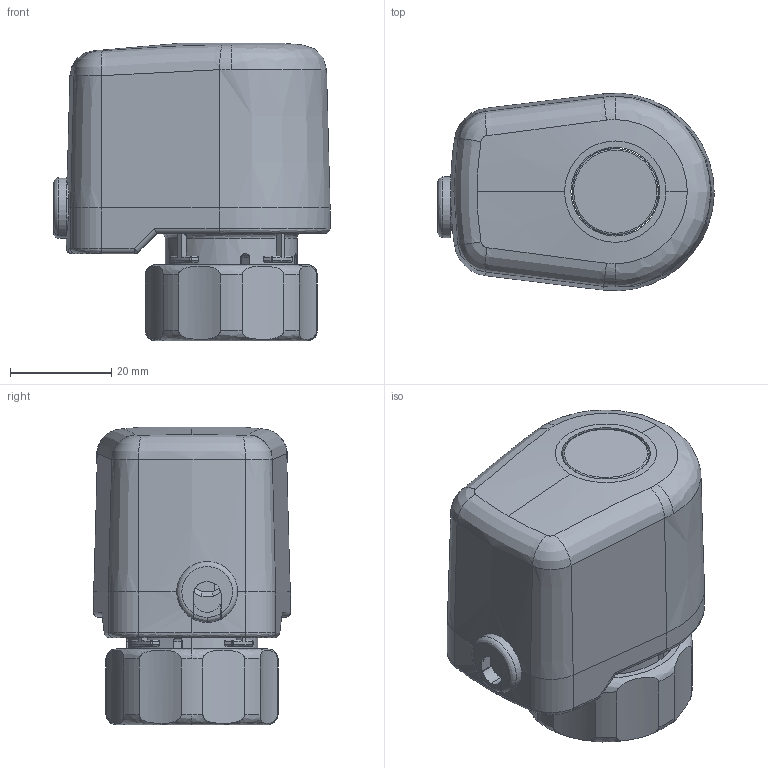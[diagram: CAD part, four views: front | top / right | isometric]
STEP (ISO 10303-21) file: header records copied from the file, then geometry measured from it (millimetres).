
FILE_DESCRIPTION (( 'STEP AP214' ), '1' );
FILE_NAME ('78871_TSA-03.STEP', '2022-04-20T13:46:53', ( '' ), ( '' ), 'SwSTEP 2.0', 'SolidWorks 2021', '' );
FILE_SCHEMA (( 'AUTOMOTIVE_DESIGN' ));
Length unit declared in the file: millimetre
Products named in the file (10): A5_00_710123_HUBANZEIGE; ZUGENTLASTUNG0; GEHAEUSE_UNTERTEIL; ZUGENTLASTUNG; BODENPLATTE; 78871_TSA-03; MUTTER_M28X1_5; A5_00_710111_HAUBE_TSA_03; ZUGENTL_KLEMMTEIL; A8850
Assembly tree (9 placements, depth 4):
  78871_TSA-03
    A8850
      MUTTER_M28X1_5
      ZUGENTLASTUNG
      ZUGENTLASTUNG0
        ZUGENTL_KLEMMTEIL
      BODENPLATTE
      GEHAEUSE_UNTERTEIL
      A5_00_710123_HUBANZEIGE
      A5_00_710111_HAUBE_TSA_03
Bounding box: 54.48 x 38.96 x 58.7 mm (x, y, z)
Volume: 30023.8 mm3; surface area: 31311.3 mm2
Topology: 7 solids, 7 shells, 1013 faces, 2752 edges, 1742 vertices
Faces by surface type: plane 515, cylinder 292, bspline 123, cone 83
Entity records: 52236 total; most frequent: CARTESIAN_POINT 16369, ORIENTED_EDGE 5480, DIRECTION 4728, EDGE_CURVE 2740, VERTEX_POINT 1741, AXIS2_PLACEMENT_3D 1647, VECTOR 1434, LINE 1434
